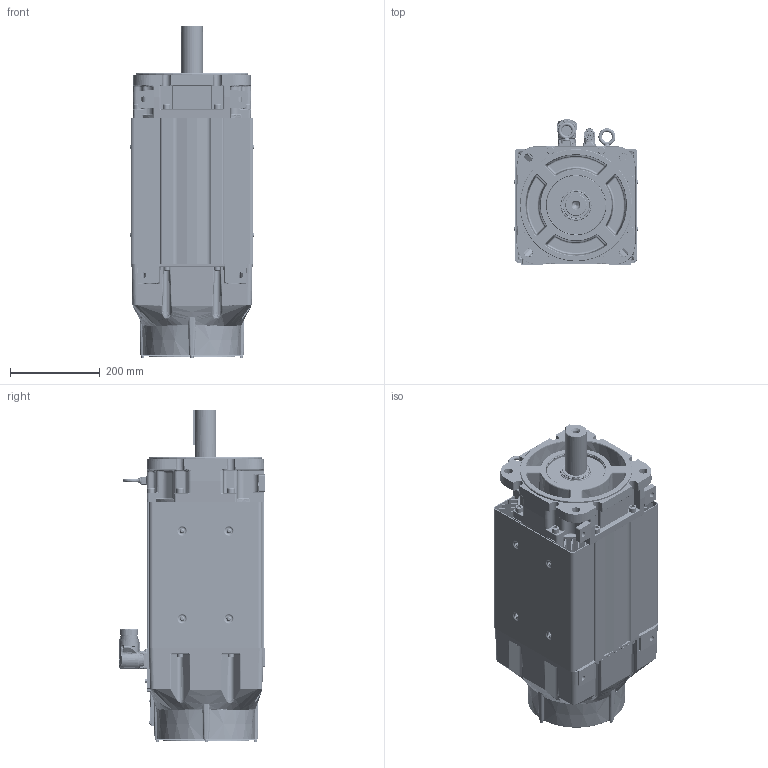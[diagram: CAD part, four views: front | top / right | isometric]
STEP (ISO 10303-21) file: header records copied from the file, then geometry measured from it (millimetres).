
FILE_DESCRIPTION((''),'2;1');
FILE_NAME('VPC-B30049-SJ72FX_ASM','2016-09-27T',('SRGaddam'),('Rockwell Automation'),'PRO/ENGINEER BY PARAMETRIC TECHNOLOGY CORPORATION, 2012480','PRO/ENGINEER BY PARAMETRIC TECHNOLOGY CORPORATION, 2012480','');
FILE_SCHEMA(('CONFIG_CONTROL_DESIGN'));
Products named in the file (42): 10001404634_AF0; 10001404629_AF6; 10001404635_ASM; 10001585735; 10001441958; 10001737030; 10001448101; 10001587021; 10001405269_AF12; 10001405240_AF25; 10001405367_ASM; 10001946256; 10001956852; 10001989665; 10001713549_ASM; M4X7X14-SOCHD-CAP-SCR; 10001978970; 10001336508; 10001587431; CH4X063; 10001299929; 10001284567; 10000172464; 10001445961; 221404-Q12; 10000231113; 10002279234; 10001443420_ASM; 10001609981; 0002-5004; 10001586887; 10001439772; 0011-2084; 142403; 125284; 142403-1_ASM; M940_ASM; 142414_623; 135798_623; 142414-1_623_ASM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
Assembly tree (81 placements, depth 4):
  VPC-B30049-SJ72FX_ASM
    10001404635_ASM
      10001404634_AF0
      10001404629_AF6
    10001585735  x8
    10001441958
    10001737030
    10001448101  x2
    10001587021  x8
    10001405367_ASM
      10001405269_AF12
      10001405240_AF25
    10001443420_ASM
      10001946256
      10001713549_ASM
        10001956852
        10001989665
      M4X7X14-SOCHD-CAP-SCR  x4
      10001978970
      10001336508
      10001587431
      CH4X063  x2
      10001299929
      10001284567
      10000172464  x4
      10001445961
      221404-Q12  x5
      10000231113
      10002279234
    10001609981
    0002-5004  x2
    10001586887  x6
    10001439772
    0011-2084
    M940_ASM
      142403-1_ASM
        142403
        125284
      221404-Q12  x4
    M623_ASM
      142414-1_623_ASM
        142414_623
        135798_623
      10000172464  x4
Bounding box: 275.91 x 324.15 x 739.85 mm (x, y, z)
Volume: 12177935.9 mm3; surface area: 2972045.1 mm2
Topology: 85 solids, 86 shells, 8042 faces, 19084 edges, 11471 vertices
Faces by surface type: cylinder 2443, plane 2249, bspline 1319, cone 1198, torus 685, sphere 142, extrusion 6
Entity records: 223631 total; most frequent: CARTESIAN_POINT 95272, ORIENTED_EDGE 27510, DIRECTION 25324, EDGE_CURVE 13755, AXIS2_PLACEMENT_3D 9773, VERTEX_POINT 8517, EDGE_LOOP 6204, VECTOR 5778
